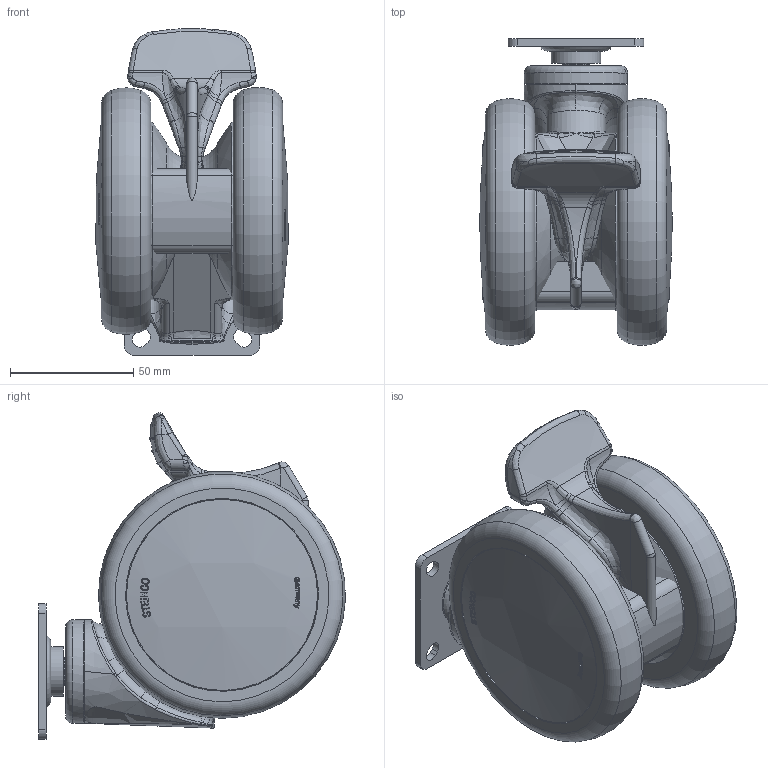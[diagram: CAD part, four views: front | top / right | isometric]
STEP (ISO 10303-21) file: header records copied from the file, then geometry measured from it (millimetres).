
FILE_DESCRIPTION(/* description */ (''),/* implementation_level */ '2;1');
FILE_NAME(/* name */ 'D:\Temp\TP-STEP_files\_inventor_\new_imports\4.R5A0.DHA0.prt.ipt.step',/* time_stamp */ '2020-11-27T10:31:03+01:00',/* author */ ('alfredS'),/* organization */ (''),/* preprocessor_version */ 'ST-DEVELOPER v18.1',/* originating_system */ 'Autodesk Inventor 2021',/* authorisation */ '');
FILE_SCHEMA (('AUTOMOTIVE_DESIGN { 1 0 10303 214 3 1 1 }'));
Length unit declared in the file: millimetre
Products named in the file (1): 4.R5A0.DHA0.prt
Bounding box: 77.97 x 124.27 x 132.3 mm (x, y, z)
Volume: 529326.1 mm3; surface area: 70143.8 mm2
Topology: 3 solids, 3 shells, 628 faces, 1585 edges, 1006 vertices
Faces by surface type: bspline 287, plane 203, cylinder 64, sphere 36, torus 35, cone 3
Full cylindrical faces by diameter (mm): 10 x1, 11 x1, 12.348 x1, 12.5 x1, 20 x1, 38.45 x1, 42 x1, 72 x2, 77.4 x2
Entity records: 36100 total; most frequent: CARTESIAN_POINT 21955, ORIENTED_EDGE 3150, DIRECTION 2445, EDGE_CURVE 1575, AXIS2_PLACEMENT_3D 1028, VERTEX_POINT 1006, EDGE_LOOP 691, FACE_OUTER_BOUND 628
